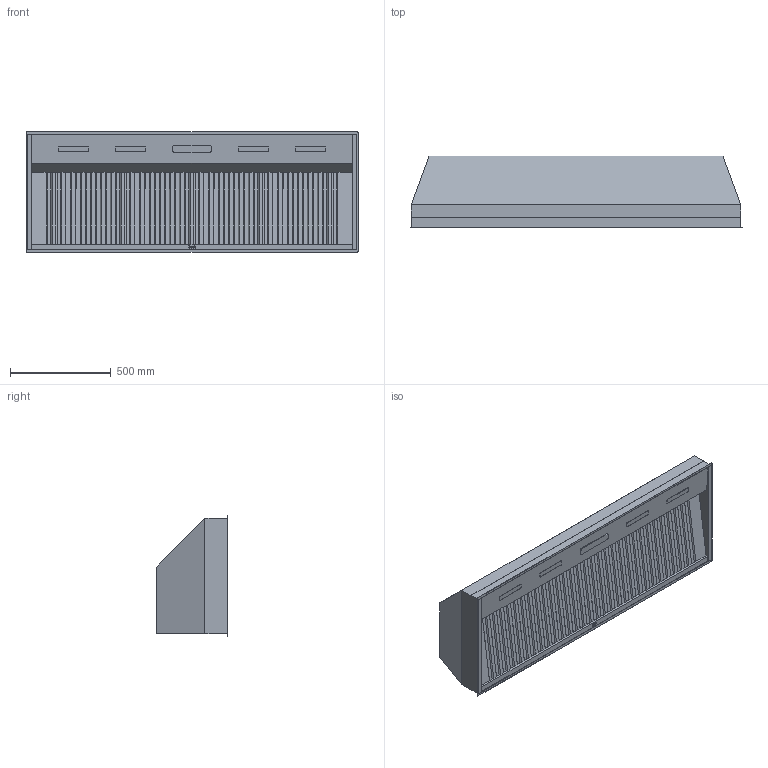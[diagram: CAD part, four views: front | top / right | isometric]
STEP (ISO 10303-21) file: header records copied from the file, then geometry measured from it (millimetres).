
FILE_DESCRIPTION((''),'2;1');
FILE_NAME('HBN566212SS_WEB_CAD_MODEL','2025-04-29T08:28:57',('BoutinM'),(''),'CREO PARAMETRIC BY PTC INC, 2023424','CREO PARAMETRIC BY PTC INC, 2023424','');
FILE_SCHEMA(('CONFIG_CONTROL_DESIGN','SHAPE_APPEARANCE_LAYERS_GROUPS'));
Length unit declared in the file: inch
Products named in the file (1): HBN566212SS_WEB_CAD_MODEL
Bounding box: 1646.61 x 356.36 x 596.9 mm (x, y, z)
Volume: 248741081 mm3; surface area: 3365533.6 mm2
Topology: 1 solids, 1 shells, 348 faces, 886 edges, 550 vertices
Faces by surface type: plane 311, cylinder 37
Entity records: 13905 total; most frequent: CARTESIAN_POINT 1784, ORIENTED_EDGE 1772, DIRECTION 1656, PRESENTATION_STYLE_ASSIGNMENT 946, STYLED_ITEM 887, CURVE_STYLE 886, EDGE_CURVE 886, VECTOR 812
